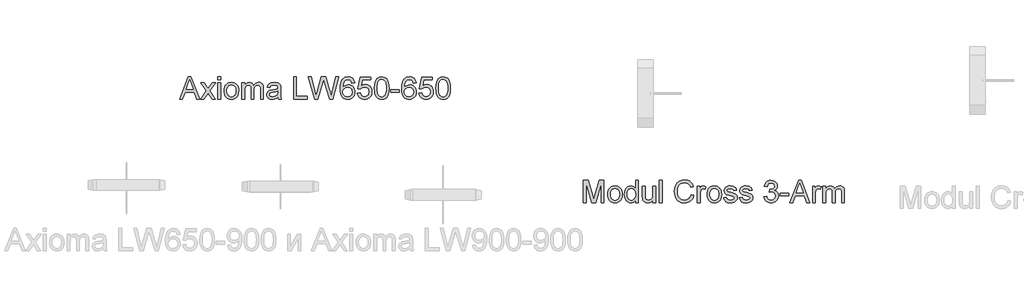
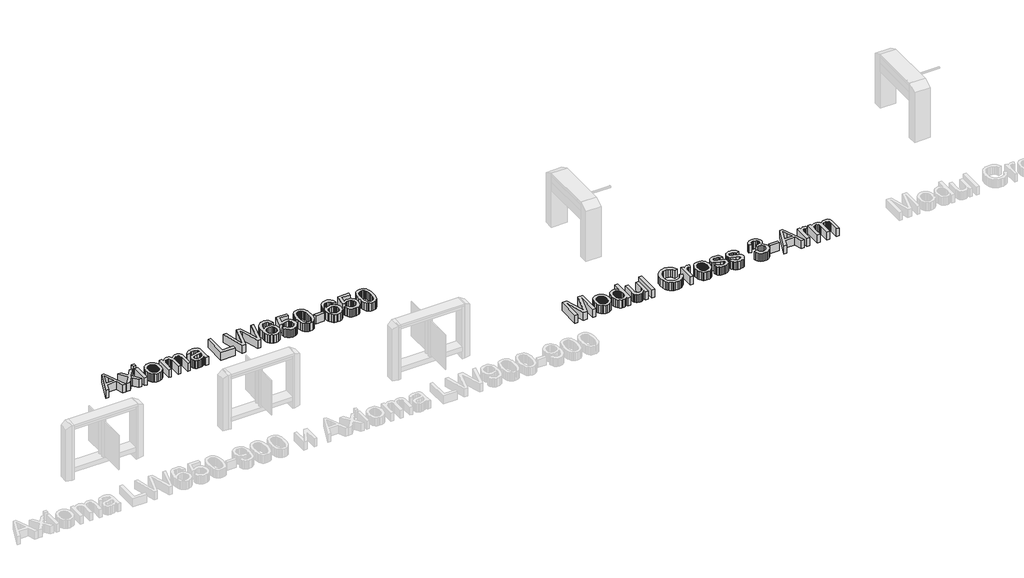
# One storey, part 5 of 6: 2 proxies.
"""IFC4 building model written with IfcOpenShell, lengths in millimetres."""

from ifc_helpers import new_model, si_unit, origin, origin_with_axes, place, context, project, spatial, polyline, outline, extrude, element, save

model = new_model("IFC4")

# Units and contexts
model_context = context("Model", 3, world=origin())
ifc_project = project(units=[si_unit("LENGTHUNIT", "METRE", prefix="MILLI")], contexts=[model_context])

# Site, building, storey
site = spatial("IfcSite", under=ifc_project)
building = spatial("IfcBuilding", under=site)
storey = spatial("IfcBuildingStorey", under=building, Name="Уровень 1", Elevation=0.0)

# Proxies
placement = place(None, origin())
element("IfcBuildingElementProxy", 1, Name="600 мм Arial", ObjectType="600 мм Arial", at=placement, inside=storey, context=model_context, shape_type="SweptSolid", body=[
    extrude(outline(polyline([(3966.2068967, 3910.7138765), (3966.2068967, 4312.5391171), (4052.6346401, 4312.5391171), (4134.8440033, 4029.3190317), (4151.4232186, 3970.1636069), (4169.3758599, 4034.224125), (4250.211797, 4312.5391171), (4336.6395404, 4312.5391171), (4336.6395404, 3910.7138765), (4286.4113853, 3910.7138765), (4286.4113853, 4262.310962), (4185.4645659, 3910.7138765), (4117.3818713, 3910.7138765), (4016.4350518, 4262.310962), (4016.4350518, 3910.7138765), (3966.2068967, 3910.7138765)])), origin_with_axes(), (0.0, 0.0, 1.0), 150.0),
    extrude(outline(polyline([(4405.7032536, 4058.259082), (4408.419449, 4096.4758899), (4416.5680352, 4129.4074599), (4430.1490122, 4157.0537918), (4449.16238, 4179.4148858), (4468.3045065, 4193.7071013), (4489.4331957, 4203.9158266), (4512.5484478, 4210.0410619), (4537.6502626, 4212.0828069), (4565.3609739, 4209.5965378), (4590.4168034, 4202.1377303), (4612.8177512, 4189.7063846), (4632.5638173, 4172.3025005), (4648.6801144, 4150.5146894), (4660.1917552, 4124.9315623), (4667.0987396, 4095.5531193), (4669.4010678, 4062.3793604), (4665.3298404, 4011.6361705), (4653.1161581, 3973.008561), (4633.1156403, 3944.0807734), (4605.6839062, 3922.4370494), (4573.1018242, 3908.9357802), (4537.6502626, 3904.4353571), (4509.5348811, 3906.9124292), (4484.2460596, 3914.3436455), (4461.7837981, 3926.729006), (4442.1480966, 3944.0685107), (4426.2034778, 3966.067854), (4414.8144644, 3992.4327303), (4407.9810563, 4023.1631397), (4405.7032536, 4058.259082)]), holes=[polyline([(4455.9314087, 4058.3571839), (4457.3845426, 4033.9941988), (4461.7439442, 4012.899232), (4469.0096136, 3995.0722837), (4479.1815508, 3980.5133537), (4491.5546486, 3969.204048), (4505.4237998, 3961.1259726), (4520.7890045, 3956.2791273), (4537.6502626, 3954.6635122), (4554.4256816, 3956.2883243), (4569.7295726, 3961.1627608), (4583.5619356, 3969.2868215), (4595.9227706, 3980.6605065), (4606.0947078, 3995.3635236), (4613.3603772, 4013.4755805), (4617.7197788, 4034.9966772), (4619.1729127, 4059.9268137), (4617.7105818, 4083.5172467), (4613.323589, 4104.0603904), (4606.0119343, 4121.556245), (4595.7756178, 4136.0048103), (4583.3687975, 4147.314116), (4569.5456316, 4155.3921915), (4554.3061199, 4160.2390368), (4537.6502626, 4161.8546519), (4520.7890045, 4160.2451681), (4505.4237998, 4155.4167169), (4491.5546486, 4147.3692983), (4479.1815508, 4136.1029122), (4469.0096136, 4121.5869018), (4461.7439442, 4103.7906103), (4457.3845426, 4082.7140376), (4455.9314087, 4058.3571839)])]), origin_with_axes(), (0.0, 0.0, 1.0), 150.0),
    extrude(outline(polyline([(4907.9848044, 3910.7138765), (4907.9848044, 3958.0970775), (4892.9568249, 3934.6200748), (4874.7527975, 3917.8507872), (4853.3727222, 3907.7892146), (4828.816599, 3904.4353571), (4796.3448816, 3909.2913994), (4766.6200164, 3923.8595264), (4741.4568879, 3947.1219313), (4722.6703807, 3978.0608071), (4710.9717332, 4015.425355), (4707.0721841, 4057.9647764), (4710.6651649, 4099.9769003), (4721.4441074, 4137.9177967), (4739.3967487, 4169.6292247), (4764.5108263, 4192.9529432), (4794.8856163, 4207.300341), (4828.6203953, 4212.0828069), (4853.1949126, 4208.6615044), (4874.9244758, 4198.3975967), (4893.343101, 4182.6645101), (4907.9848044, 4162.8356705), (4907.9848044, 4312.5391171), (4958.2129595, 4312.5391171), (4958.2129595, 3910.7138765), (4907.9848044, 3910.7138765)]), holes=[polyline([(4757.3003392, 4058.1609802), (4758.7166848, 4033.8041264), (4762.9657219, 4012.7275537), (4770.0474503, 3994.9312622), (4779.9618701, 3980.4152518), (4804.6590147, 3961.1014471), (4818.5342973, 3956.2729959), (4833.4273867, 3954.6635122), (4848.3909869, 3956.1994195), (4862.183496, 3960.8071415), (4886.2552412, 3979.2380295), (4895.7619251, 3993.1470346), (4902.5524136, 4010.2995326), (4907.9848044, 4054.3350074), (4902.4543117, 4102.4784978), (4895.5411959, 4121.013619), (4885.8628337, 4135.8576575), (4874.1611206, 4147.2313426), (4861.1779519, 4155.3554033), (4846.9133275, 4160.2298397), (4831.3672475, 4161.8546519), (4816.1798525, 4160.2942191), (4802.3045699, 4155.6129207), (4789.7413998, 4147.8107567), (4778.4903421, 4136.8877271), (4769.2197158, 4122.6047087), (4762.5978399, 4104.722578), (4757.3003392, 4058.1609802)])]), origin_with_axes(), (0.0, 0.0, 1.0), 150.0),
    extrude(outline(polyline([(5221.9107736, 3910.7138765), (5221.9107736, 3961.4325409), (5203.737403, 3936.496273), (5182.5719256, 3918.684653), (5158.4143412, 3907.9976811), (5131.26465, 3904.4353571), (5106.8004973, 3906.9369547), (5084.0286018, 3914.4417474), (5064.9232635, 3925.7234619), (5051.4587825, 3939.5558249), (5042.3966227, 3956.3557694), (5036.498248, 3976.5402282), (5033.5551921, 4023.2367161), (5033.5551921, 4205.8042875), (5083.7833472, 4205.8042875), (5083.7833472, 4046.8792656), (5086.824505, 3995.6700919), (5094.1453567, 3978.5881046), (5106.6901327, 3965.6018702), (5123.6249672, 3957.3981017), (5144.1159944, 3954.6635122), (5165.7842439, 3957.4594153), (5186.0545418, 3965.8471248), (5202.7686471, 3979.0540885), (5213.7683188, 3996.307754), (5219.8751599, 4019.9380409), (5221.9107736, 4052.2748682), (5221.9107736, 4205.8042875), (5272.1389287, 4205.8042875), (5272.1389287, 3910.7138765), (5221.9107736, 3910.7138765)])), origin_with_axes(), (0.0, 0.0, 1.0), 150.0),
    extrude(outline(polyline([(5341.2026419, 3910.7138765), (5341.2026419, 4312.5391171), (5391.430797, 4312.5391171), (5391.430797, 3910.7138765), (5341.2026419, 3910.7138765)])), origin_with_axes(), (0.0, 0.0, 1.0), 150.0),
    extrude(outline(polyline([(5912.5479059, 4053.5501925), (5962.776061, 4040.6007462), (5952.8371157, 4009.3644992), (5939.5994953, 3982.0707208), (5923.0631996, 3958.7194112), (5903.2282287, 3939.3105702), (5880.5421723, 3924.0526645), (5855.4526202, 3913.1541604), (5827.9595725, 3906.6150579), (5798.063029, 3904.4353571), (5767.4337872, 3906.0846947), (5739.8027837, 3911.0327075), (5715.1700184, 3919.2793956), (5693.5354914, 3930.8247589), (5674.6018314, 3945.4971191), (5658.0716671, 3963.1247981), (5643.9449985, 3983.7077957), (5632.2218256, 4007.246112), (5616.439688, 4059.1174733), (5611.1789754, 4114.6676546), (5617.126401, 4173.2589937), (5624.560683, 4199.556425), (5634.9686778, 4223.8550308), (5648.1173934, 4245.7532065), (5663.773838, 4264.8493478), (5681.9380115, 4281.1434545), (5702.609914, 4294.6355267), (5725.0875039, 4305.2151997), (5748.6687398, 4312.772109), (5799.1421495, 4318.8176365), (5827.8706676, 4316.8617305), (5854.2140842, 4310.9940127), (5878.1723991, 4301.214483), (5899.7456125, 4287.5231414), (5918.5781049, 4270.2817386), (5934.3142573, 4249.8520251), (5946.9540695, 4226.234001), (5956.4975416, 4199.4276663), (5906.2693865, 4187.4592387), (5888.8563054, 4224.0880227), (5865.066603, 4249.214363), (5834.6059738, 4263.7457018), (5797.1801122, 4268.5894814), (5754.0398169, 4263.2184043), (5735.3575429, 4256.5045579), (5718.600518, 4247.1051729), (5691.7083442, 4221.9420444), (5674.2094239, 4189.421276), (5664.6077039, 4152.657602), (5661.4071305, 4114.7657565), (5665.1963151, 4068.3635742), (5676.5638687, 4028.2399112), (5695.9389871, 3995.9276093), (5723.750866, 3972.9595101), (5757.0932375, 3959.2375116), (5793.0598339, 3954.6635122), (5814.896696, 3956.2208793), (5834.9861186, 3960.8929806), (5853.3281017, 3968.6798162), (5869.9226454, 3979.581386), (5884.3773421, 3993.5486391), (5896.2997844, 4010.5325245), (5905.6899724, 4030.5330423), (5912.5479059, 4053.5501925)])), origin_with_axes(), (0.0, 0.0, 1.0), 150.0),
    extrude(outline(polyline([(6025.5612548, 3910.7138765), (6025.5612548, 4205.8042875), (6069.5108905, 4205.8042875), (6069.5108905, 4162.1489575), (6085.7467492, 4187.4592387), (6100.7072837, 4202.3707223), (6115.7168691, 4209.6547858), (6132.0998806, 4212.0828069), (6157.1158563, 4208.2077833), (6182.5242394, 4196.5827122), (6165.7488204, 4151.553956), (6148.0904847, 4159.2794779), (6130.4321489, 4161.8546519), (6115.4348262, 4159.3775798), (6102.0316589, 4151.9463635), (6091.2036655, 4140.1250887), (6083.9318647, 4124.4778411), (6077.8250236, 4096.4207076), (6075.7894099, 4065.8129257), (6075.7894099, 3910.7138765), (6025.5612548, 3910.7138765)])), origin_with_axes(), (0.0, 0.0, 1.0), 150.0),
    extrude(outline(polyline([(6201.3597976, 4058.259082), (6204.075993, 4096.4758899), (6212.2245792, 4129.4074599), (6225.8055561, 4157.0537918), (6244.8189239, 4179.4148858), (6263.9610504, 4193.7071013), (6285.0897397, 4203.9158266), (6308.2049917, 4210.0410619), (6333.3068065, 4212.0828069), (6361.0175178, 4209.5965378), (6386.0733473, 4202.1377303), (6408.4742952, 4189.7063846), (6428.2203613, 4172.3025005), (6444.3366583, 4150.5146894), (6455.8482991, 4124.9315623), (6462.7552836, 4095.5531193), (6465.0576117, 4062.3793604), (6460.9863843, 4011.6361705), (6448.7727021, 3973.008561), (6428.7721843, 3944.0807734), (6401.3404501, 3922.4370494), (6368.7583681, 3908.9357802), (6333.3068065, 3904.4353571), (6305.191425, 3906.9124292), (6279.9026035, 3914.3436455), (6257.440342, 3926.729006), (6237.8046406, 3944.0685107), (6221.8600217, 3966.067854), (6210.4710083, 3992.4327303), (6203.6376003, 4023.1631397), (6201.3597976, 4058.259082)]), holes=[polyline([(6251.5879526, 4058.3571839), (6253.0410865, 4033.9941988), (6257.4004882, 4012.899232), (6264.6661576, 3995.0722837), (6274.8380947, 3980.5133537), (6287.2111925, 3969.204048), (6301.0803437, 3961.1259726), (6316.4455484, 3956.2791273), (6333.3068065, 3954.6635122), (6350.0822255, 3956.2883243), (6365.3861165, 3961.1627608), (6379.2184795, 3969.2868215), (6391.5793145, 3980.6605065), (6401.7512517, 3995.3635236), (6409.0169211, 4013.4755805), (6413.3763228, 4034.9966772), (6414.8294566, 4059.9268137), (6413.3671257, 4083.5172467), (6408.9801329, 4104.0603904), (6401.6684783, 4121.556245), (6391.4321617, 4136.0048103), (6379.0253415, 4147.314116), (6365.2021755, 4155.3921915), (6349.9626638, 4160.2390368), (6333.3068065, 4161.8546519), (6316.4455484, 4160.2451681), (6301.0803437, 4155.4167169), (6287.2111925, 4147.3692983), (6274.8380947, 4136.1029122), (6264.6661576, 4121.5869018), (6257.4004882, 4103.7906103), (6253.0410865, 4082.7140376), (6251.5879526, 4058.3571839)])]), origin_with_axes(), (0.0, 0.0, 1.0), 150.0),
    extrude(outline(polyline([(6502.728728, 3998.6131479), (6552.9568831, 4004.8916672), (6560.8786087, 3983.4073587), (6576.2070252, 3967.6129584), (6599.0402344, 3957.9008737), (6629.4763381, 3954.6635122), (6659.5445598, 3957.6310936), (6680.6855118, 3966.5338379), (6693.1934997, 3979.4342332), (6697.3628289, 3994.3947677), (6693.1689742, 4007.1970611), (6680.58741, 4016.9581967), (6628.8877269, 4031.281069), (6553.2511887, 4055.8555863), (6534.1090622, 4068.2041586), (6520.239911, 4084.5503819), (6511.8154133, 4103.851924), (6509.0072474, 4125.0664523), (6511.2635903, 4144.5274099), (6518.032619, 4162.492314), (6528.7011969, 4178.2499261), (6542.6561872, 4191.0890077), (6574.5883444, 4205.9514403), (6595.471779, 4210.5499653), (6617.8022161, 4212.0828069), (6650.4946627, 4209.6179976), (6678.9196782, 4202.2235695), (6701.7774129, 4190.6230239), (6717.7680169, 4175.5398621), (6728.3630184, 4155.8581753), (6735.0339452, 4130.4620549), (6684.8057902, 4124.1835356), (6678.4659571, 4139.9901986), (6665.9211811, 4151.8973125), (6647.0488347, 4159.365317), (6621.7262907, 4161.8546519), (6592.8843423, 4159.4756816), (6573.6563767, 4152.3387709), (6562.840646, 4142.0380751), (6559.2354025, 4130.1677493), (6565.2196163, 4115.5505714), (6583.9570726, 4104.4650606), (6627.2199952, 4093.7719573), (6700.943547, 4070.1294077), (6720.4167673, 4058.8231677), (6735.181098, 4043.3475985), (6744.4885125, 4023.653649), (6747.590984, 3999.6922684), (6743.9489523, 3974.9215474), (6733.022857, 3951.6223543), (6715.2296312, 3931.6218365), (6690.9862077, 3916.7471412), (6661.7028009, 3907.5133031), (6628.789625, 3904.4353571), (6601.7564298, 3905.9191478), (6578.144537, 3910.37052), (6557.9539469, 3917.7894735), (6541.1846592, 3928.1760085), (6527.4871863, 3941.481074), (6516.5120401, 3957.6556191), (6508.2592207, 3976.6996437), (6502.728728, 3998.6131479)])), origin_with_axes(), (0.0, 0.0, 1.0), 150.0),
    extrude(outline(polyline([(6785.2621003, 3998.6131479), (6835.4902554, 4004.8916672), (6843.411981, 3983.4073587), (6858.7403975, 3967.6129584), (6881.5736066, 3957.9008737), (6912.0097104, 3954.6635122), (6942.0779321, 3957.6310936), (6963.2188841, 3966.5338379), (6975.7268719, 3979.4342332), (6979.8962012, 3994.3947677), (6975.7023465, 4007.1970611), (6963.1207822, 4016.9581967), (6911.4210992, 4031.281069), (6835.784561, 4055.8555863), (6816.6424345, 4068.2041586), (6802.7732833, 4084.5503819), (6794.3487856, 4103.851924), (6791.5406197, 4125.0664523), (6793.7969626, 4144.5274099), (6800.5659913, 4162.492314), (6811.2345692, 4178.2499261), (6825.1895595, 4191.0890077), (6857.1217167, 4205.9514403), (6878.0051513, 4210.5499653), (6900.3355884, 4212.0828069), (6933.028035, 4209.6179976), (6961.4530505, 4202.2235695), (6984.3107852, 4190.6230239), (7000.3013892, 4175.5398621), (7010.8963907, 4155.8581753), (7017.5673175, 4130.4620549), (6967.3391625, 4124.1835356), (6960.9993294, 4139.9901986), (6948.4545534, 4151.8973125), (6929.582207, 4159.365317), (6904.259663, 4161.8546519), (6875.4177146, 4159.4756816), (6856.189749, 4152.3387709), (6845.3740183, 4142.0380751), (6841.7687748, 4130.1677493), (6847.7529886, 4115.5505714), (6866.4904448, 4104.4650606), (6909.7533675, 4093.7719573), (6983.4769193, 4070.1294077), (7002.9501396, 4058.8231677), (7017.7144703, 4043.3475985), (7027.0218848, 4023.653649), (7030.1243563, 3999.6922684), (7026.4823245, 3974.9215474), (7015.5562293, 3951.6223543), (6997.7630035, 3931.6218365), (6973.51958, 3916.7471412), (6944.2361732, 3907.5133031), (6911.3229973, 3904.4353571), (6884.289802, 3905.9191478), (6860.6779093, 3910.37052), (6840.4873192, 3917.7894735), (6823.7180315, 3928.1760085), (6810.0205586, 3941.481074), (6799.0454124, 3957.6556191), (6790.792593, 3976.6996437), (6785.2621003, 3998.6131479)])), origin_with_axes(), (0.0, 0.0, 1.0), 150.0),
    extrude(outline(polyline([(7231.0369766, 4017.448706), (7281.2651317, 4023.7272254), (7292.510058, 3992.1629502), (7308.9789086, 3970.85032), (7331.481024, 3958.7102141), (7360.8257445, 3954.6635122), (7395.2594992, 3960.230793), (7409.5333207, 3967.1898941), (7421.8451048, 3976.9326356), (7438.8412529, 4001.8505094), (7444.5066357, 4032.065884), (7438.8903039, 4060.7484169), (7422.0413085, 4084.0108217), (7396.5348235, 4099.4250773), (7364.9460228, 4104.5631625), (7329.7274532, 4099.069458), (7335.3192595, 4149.2976131), (7343.3636125, 4148.7090019), (7373.4563597, 4152.3142455), (7400.3607962, 4163.1299761), (7411.4340443, 4171.3092191), (7419.3435072, 4181.425974), (7424.0891849, 4193.4802407), (7425.6710775, 4207.4720193), (7421.0848153, 4229.1647942), (7407.3260287, 4246.7618163), (7386.3322295, 4258.4236756), (7360.0409296, 4262.310962), (7333.7005787, 4258.3868874), (7312.1672193, 4246.6146635), (7296.4463953, 4226.9942905), (7287.5436511, 4199.5257682), (7237.315496, 4205.8042875), (7243.2690529, 4229.7840623), (7252.1043522, 4250.9066202), (7263.8213937, 4269.1719612), (7278.4201776, 4284.5800854), (7295.4408512, 4296.8121618), (7314.4235622, 4305.5493592), (7335.3683104, 4310.7916776), (7358.275096, 4312.5391171), (7389.8516339, 4309.0932891), (7418.8529979, 4298.755805), (7443.3048878, 4282.4463699), (7461.2330037, 4261.0846887), (7472.2326754, 4236.4733832), (7475.8992326, 4210.4150752), (7472.4166164, 4186.1348635), (7461.9687677, 4164.1109948), (7444.7028394, 4145.349013), (7420.7659842, 4130.8544624), (7452.2076321, 4118.1502708), (7475.5068251, 4096.5188095), (7489.9277993, 4067.1373008), (7494.7347907, 4031.1829672), (7492.331295, 4005.7010076), (7485.1208079, 3982.2301363), (7473.1033294, 3960.7703533), (7456.2788595, 3941.3216585), (7435.781701, 3925.1839016), (7412.7461568, 3913.6569324), (7387.1722267, 3906.7407509), (7359.0599109, 3904.4353571), (7333.6515278, 3906.4035258), (7310.4994876, 3912.3080318), (7289.6037902, 3922.1488752), (7270.9644358, 3935.9260559), (7255.3355824, 3952.8302336), (7243.471388, 3972.0520678), (7235.3718528, 3993.5915586), (7231.0369766, 4017.448706)])), origin_with_axes(), (0.0, 0.0, 1.0), 150.0),
    extrude(outline(polyline([(7526.1273877, 4030.0057448), (7526.1273877, 4080.2338999), (7683.0903723, 4080.2338999), (7683.0903723, 4030.0057448), (7526.1273877, 4030.0057448)])), origin_with_axes(), (0.0, 0.0, 1.0), 150.0),
    extrude(outline(polyline([(7699.0809763, 3910.7138765), (7859.4775262, 4312.5391171), (7902.2499395, 4312.5391171), (8062.6464894, 3910.7138765), (8009.5733803, 3910.7138765), (7963.5636054, 4036.2842642), (7798.0657585, 4036.2842642), (7752.1540855, 3910.7138765), (7699.0809763, 3910.7138765)]), holes=[polyline([(7816.5089092, 4086.5124192), (7945.2185566, 4086.5124192), (7909.0189682, 4185.3009977), (7880.8637329, 4262.310962), (7855.8477572, 4193.9339618), (7816.5089092, 4086.5124192)])]), origin_with_axes(), (0.0, 0.0, 1.0), 150.0),
    extrude(outline(polyline([(8110.0296904, 3910.7138765), (8110.0296904, 4205.8042875), (8153.9793261, 4205.8042875), (8153.9793261, 4162.1489575), (8170.2151848, 4187.4592387), (8185.1757193, 4202.3707223), (8200.1853047, 4209.6547858), (8216.5683162, 4212.0828069), (8241.5842919, 4208.2077833), (8266.992675, 4196.5827122), (8250.217256, 4151.553956), (8232.5589203, 4159.2794779), (8214.9005845, 4161.8546519), (8199.9032618, 4159.3775798), (8186.5000945, 4151.9463635), (8175.6721011, 4140.1250887), (8168.4003003, 4124.4778411), (8162.2934592, 4096.4207076), (8160.2578455, 4065.8129257), (8160.2578455, 3910.7138765), (8110.0296904, 3910.7138765)])), origin_with_axes(), (0.0, 0.0, 1.0), 150.0),
    extrude(outline(polyline([(8298.3852719, 3910.7138765), (8298.3852719, 4205.8042875), (8348.613427, 4205.8042875), (8348.613427, 4157.2438642), (8363.7211143, 4179.5497758), (8383.1452836, 4197.0241706), (8406.2237475, 4208.3181478), (8432.2943182, 4212.0828069), (8460.2288244, 4208.2445715), (8482.6205751, 4196.729865), (8499.3469432, 4178.298977), (8510.2853012, 4153.712197), (8528.5935618, 4179.2493389), (8549.4769964, 4197.4901545), (8572.9356049, 4208.4346438), (8598.9693875, 4212.0828069), (8619.0772042, 4210.5652937), (8636.7263429, 4206.012754), (8651.9168036, 4198.4251879), (8664.6485863, 4187.8025953), (8674.7132246, 4174.0223488), (8681.9022519, 4156.9618213), (8686.2156683, 4136.6210127), (8687.6534738, 4112.9999229), (8687.6534738, 3910.7138765), (8637.4253187, 3910.7138765), (8637.4253187, 4091.4175125), (8636.260359, 4116.4702764), (8632.7654801, 4133.35606), (8626.2171806, 4144.9198173), (8615.8919592, 4154.0065026), (8602.6114192, 4159.8926146), (8587.1971636, 4161.8546519), (8559.9861587, 4156.8269313), (8537.8028744, 4141.7437695), (8529.1975014, 4130.1738807), (8523.0508064, 4115.5750969), (8518.1334504, 4077.2908439), (8518.1334504, 3910.7138765), (8467.9052953, 3910.7138765), (8467.9052953, 4097.0093188), (8464.9990276, 4125.4098089), (8456.2802243, 4145.6678441), (8440.9395451, 4157.8079499), (8418.1676496, 4161.8546519), (8398.8170566, 4159.1568506), (8380.9870426, 4151.0634467), (8366.2717628, 4137.7706439), (8356.2653725, 4119.474646), (8350.5264134, 4094.0907883), (8348.613427, 4059.5344063), (8348.613427, 3910.7138765), (8298.3852719, 3910.7138765)])), origin_with_axes(), (0.0, 0.0, 1.0), 150.0),
])
element("IfcBuildingElementProxy", 2, Name="600 мм Arial", ObjectType="600 мм Arial", at=placement, inside=storey, context=model_context, shape_type="SweptSolid", body=[
    extrude(outline(polyline([(-3339.2674295, 5782.6803252), (-3178.8708796, 6184.5055658), (-3136.0984663, 6184.5055658), (-2975.7019164, 5782.6803252), (-3028.7750255, 5782.6803252), (-3074.7848004, 5908.2507129), (-3240.2826473, 5908.2507129), (-3286.1943203, 5782.6803252), (-3339.2674295, 5782.6803252)]), holes=[polyline([(-3221.8394966, 5958.478868), (-3093.1298492, 5958.478868), (-3129.3294376, 6057.2674464), (-3157.4846729, 6134.2774107), (-3182.5006486, 6065.9004106), (-3221.8394966, 5958.478868)])]), origin_with_axes(), (0.0, 0.0, 1.0), 150.0),
    extrude(outline(polyline([(-2959.7113123, 5782.6803252), (-2852.3878716, 5931.0103457), (-2953.4327929, 6077.7707363), (-2893.0020439, 6077.7707363), (-2844.2454168, 6007.1373932), (-2821.485784, 5973.782759), (-2801.767309, 6001.0550776), (-2746.2416532, 6077.7707363), (-2685.8109042, 6077.7707363), (-2791.9571225, 5931.0103457), (-2689.7349788, 5782.6803252), (-2750.1657279, 5782.6803252), (-2811.6755974, 5871.8549209), (-2822.957312, 5888.1398305), (-2899.2805632, 5782.6803252), (-2959.7113123, 5782.6803252)])), origin_with_axes(), (0.0, 0.0, 1.0), 150.0),
    extrude(outline(polyline([(-2645.7853431, 6134.2774107), (-2645.7853431, 6184.5055658), (-2595.557188, 6184.5055658), (-2595.557188, 6134.2774107), (-2645.7853431, 6134.2774107)])), origin_with_axes(), (0.0, 0.0, 1.0), 150.0),
    extrude(outline(polyline([(-2645.7853431, 5782.6803252), (-2645.7853431, 6077.7707363), (-2595.557188, 6077.7707363), (-2595.557188, 5782.6803252), (-2645.7853431, 5782.6803252)])), origin_with_axes(), (0.0, 0.0, 1.0), 150.0),
    extrude(outline(polyline([(-2532.7719942, 5930.2255308), (-2530.0557988, 5968.4423387), (-2521.9072126, 6001.3739086), (-2508.3262356, 6029.0202406), (-2489.3128678, 6051.3813345), (-2470.1707413, 6065.67355), (-2449.0420521, 6075.8822754), (-2425.9268, 6082.0075106), (-2400.8249852, 6084.0492557), (-2373.1142739, 6081.5629865), (-2348.0584444, 6074.1041791), (-2325.6574966, 6061.6728333), (-2305.9114305, 6044.2689493), (-2289.7951334, 6022.4811381), (-2278.2834926, 5996.898011), (-2271.3765082, 5967.519568), (-2269.07418, 5934.3458091), (-2273.1454074, 5883.6026192), (-2285.3590897, 5844.9750097), (-2305.3596075, 5816.0472222), (-2332.7913416, 5794.4034981), (-2365.3734236, 5780.9022289), (-2400.8249852, 5776.4018058), (-2428.9403667, 5778.8788779), (-2454.2291882, 5786.3100942), (-2476.6914497, 5798.6954547), (-2496.3271512, 5816.0349595), (-2512.27177, 5838.0343028), (-2523.6607834, 5864.3991791), (-2530.4941915, 5895.1295884), (-2532.7719942, 5930.2255308)]), holes=[polyline([(-2482.5438391, 5930.3236326), (-2481.0907052, 5905.9606475), (-2476.7313036, 5884.8656808), (-2469.4656342, 5867.0387324), (-2459.293697, 5852.4798024), (-2446.9205992, 5841.1704968), (-2433.051448, 5833.0924213), (-2417.6862433, 5828.245576), (-2400.8249852, 5826.6299609), (-2384.0495663, 5828.2547731), (-2368.7456753, 5833.1292095), (-2354.9133122, 5841.2532702), (-2342.5524772, 5852.6269552), (-2332.38054, 5867.3299723), (-2325.1148706, 5885.4420292), (-2320.755469, 5906.9631259), (-2319.3023351, 5931.8932625), (-2320.764666, 5955.4836954), (-2325.1516588, 5976.0268392), (-2332.4633135, 5993.5226937), (-2342.69963, 6007.9712591), (-2355.1064503, 6019.2805647), (-2368.9296163, 6027.3586402), (-2384.1691279, 6032.2054855), (-2400.8249852, 6033.8211006), (-2417.6862433, 6032.2116169), (-2433.051448, 6027.3831657), (-2446.9205992, 6019.335747), (-2459.293697, 6008.0693609), (-2469.4656342, 5993.5533505), (-2476.7313036, 5975.757059), (-2481.0907052, 5954.6804864), (-2482.5438391, 5930.3236326)])]), origin_with_axes(), (0.0, 0.0, 1.0), 150.0),
    extrude(outline(polyline([(-2212.5675056, 5782.6803252), (-2212.5675056, 6077.7707363), (-2162.3393505, 6077.7707363), (-2162.3393505, 6029.2103129), (-2147.2316632, 6051.5162246), (-2127.8074939, 6068.9906193), (-2104.7290301, 6080.2845966), (-2078.6584593, 6084.0492557), (-2050.7239532, 6080.2110202), (-2028.3322024, 6068.6963137), (-2011.6058343, 6050.2654258), (-2000.6674763, 6025.6786458), (-1982.3592157, 6051.2157876), (-1961.4757811, 6069.4566032), (-1938.0171726, 6080.4010926), (-1911.98339, 6084.0492557), (-1891.8755733, 6082.5317424), (-1874.2264346, 6077.9792028), (-1859.0359739, 6070.3916366), (-1846.3041912, 6059.769044), (-1836.2395529, 6045.9887976), (-1829.0505256, 6028.9282701), (-1824.7371092, 6008.5874614), (-1823.2993037, 5984.9663716), (-1823.2993037, 5782.6803252), (-1873.5274588, 5782.6803252), (-1873.5274588, 5963.3839613), (-1874.6924185, 5988.4367251), (-1878.1872974, 6005.3225087), (-1884.7355969, 6016.8862661), (-1895.0608183, 6025.9729514), (-1908.3413583, 6031.8590633), (-1923.7556139, 6033.8211006), (-1950.9666188, 6028.79338), (-1973.1499031, 6013.7102182), (-1981.7552761, 6002.1403294), (-1987.9019711, 5987.5415456), (-1992.8193271, 5949.2572926), (-1992.8193271, 5782.6803252), (-2043.0474822, 5782.6803252), (-2043.0474822, 5968.9757676), (-2045.95375, 5997.3762576), (-2054.6725532, 6017.6342928), (-2070.0132324, 6029.7743987), (-2092.7851279, 6033.8211006), (-2112.1357209, 6031.1232993), (-2129.9657349, 6023.0298954), (-2144.6810147, 6009.7370926), (-2154.687405, 5991.4410948), (-2160.4263641, 5966.0572371), (-2162.3393505, 5931.500855), (-2162.3393505, 5782.6803252), (-2212.5675056, 5782.6803252)])), origin_with_axes(), (0.0, 0.0, 1.0), 150.0),
    extrude(outline(polyline([(-1559.6014896, 5820.3514415), (-1583.5996584, 5799.7745753), (-1608.3090658, 5786.3100942), (-1634.2937974, 5778.8788779), (-1662.1179389, 5776.4018058), (-1684.4820985, 5777.8917279), (-1704.0932746, 5782.3614942), (-1720.951467, 5789.8111046), (-1735.0566758, 5800.2405591), (-1746.1943032, 5812.9876703), (-1754.1497514, 5827.3902504), (-1758.9230203, 5843.4482995), (-1760.5141099, 5861.1618175), (-1758.1106142, 5881.9839385), (-1750.9001271, 5900.893073), (-1739.7778281, 5917.0798808), (-1725.6388968, 5929.7350214), (-1709.0228933, 5939.2999533), (-1690.469378, 5946.2161348), (-1647.0102517, 5953.7699784), (-1595.6539251, 5961.7162295), (-1559.8957952, 5971.0359068), (-1559.6014896, 5982.2195194), (-1563.0595804, 6004.6357956), (-1573.4338526, 6019.3020245), (-1596.6349438, 6030.1913316), (-1628.9595084, 6033.8211006), (-1658.8805774, 6031.4053422), (-1679.7762747, 6024.1580669), (-1694.0255706, 6010.7548995), (-1704.0074354, 5989.8714649), (-1754.2355905, 5996.1499843), (-1745.5167872, 6023.6185066), (-1732.5060273, 6045.200917), (-1713.9893002, 6061.7065558), (-1688.7525954, 6073.9447635), (-1657.887296, 6081.5231326), (-1622.4847853, 6084.0492557), (-1588.5292772, 6081.8174382), (-1561.6125778, 6075.1219859), (-1541.3177544, 6065.054282), (-1527.227874, 6052.7057097), (-1517.8836713, 6037.4386069), (-1511.8258812, 6018.6153115), (-1509.3733345, 5974.6656758), (-1509.3733345, 5912.1747875), (-1506.822686, 5824.9131783), (-1496.8162958, 5782.6803252), (-1547.0444508, 5782.6803252), (-1555.0888038, 5800.1424573), (-1559.6014896, 5820.3514415)]), holes=[polyline([(-1559.6014896, 5920.8077517), (-1593.3485313, 5912.4445677), (-1640.6336304, 5905.4057588), (-1683.8475021, 5897.263304), (-1695.0924284, 5891.6960231), (-1703.4188242, 5884.0195522), (-1708.5691722, 5874.8225023), (-1710.2859548, 5864.6934847), (-1706.5458212, 5849.7574757), (-1695.3254204, 5837.519268), (-1676.8700069, 5829.3522877), (-1651.4248356, 5826.6299609), (-1624.4468226, 5829.6343305), (-1600.6080693, 5838.6474394), (-1581.2820018, 5851.9279795), (-1567.8420463, 5867.7346425), (-1561.882358, 5884.0195522), (-1559.8957952, 5906.5829812), (-1559.6014896, 5920.8077517)])]), origin_with_axes(), (0.0, 0.0, 1.0), 150.0),
    extrude(outline(polyline([(-1277.0681173, 5782.6803252), (-1277.0681173, 6184.5055658), (-1226.8399622, 6184.5055658), (-1226.8399622, 5832.9084803), (-1025.9273419, 5832.9084803), (-1025.9273419, 5782.6803252), (-1277.0681173, 5782.6803252)])), origin_with_axes(), (0.0, 0.0, 1.0), 150.0),
    extrude(outline(polyline([(-897.5120001, 5782.6803252), (-1007.0917838, 6184.5055658), (-955.2939989, 6184.5055658), (-891.7239901, 5920.4153442), (-872.103617, 5838.8926941), (-851.1098178, 5910.9975651), (-771.4511031, 6184.5055658), (-696.7955836, 6184.5055658), (-638.915483, 5986.2416959), (-614.1202365, 5912.6652969), (-595.8487641, 5838.8926941), (-576.8170022, 5918.0608994), (-512.6583823, 6184.5055658), (-460.8605973, 6184.5055658), (-570.5384828, 5782.6803252), (-624.2002032, 5782.6803252), (-720.536235, 6092.6822198), (-733.9761906, 6135.9451425), (-749.0838778, 6083.8530519), (-836.8850473, 5782.6803252), (-897.5120001, 5782.6803252)])), origin_with_axes(), (0.0, 0.0, 1.0), 150.0),
    extrude(outline(polyline([(-172.0487057, 6077.7707363), (-222.2768607, 6071.4922169), (-230.3702646, 6096.3855652), (-241.3086226, 6113.3817134), (-264.0927809, 6129.0534864), (-291.6348796, 6134.2774107), (-314.9831235, 6131.2362529), (-336.9579414, 6122.1127794), (-355.8302877, 6102.8970766), (-371.2445433, 6076.4463611), (-381.6556038, 6039.0327622), (-385.5183647, 5986.9284089), (-365.3706941, 6010.4360684), (-341.2253725, 6027.003021), (-314.4313005, 6036.8254702), (-286.3373788, 6040.09962), (-262.2043199, 6037.8616712), (-239.9351965, 6031.1478248), (-219.5300085, 6019.9580807), (-200.9887559, 6004.2924391), (-185.5806317, 5985.0828676), (-174.5748287, 5963.2613339), (-167.9713469, 5938.8278381), (-165.7701863, 5911.7823801), (-169.9149901, 5875.8157837), (-182.3494015, 5842.4734122), (-202.043351, 5814.1955495), (-227.9667689, 5793.4224795), (-258.9424329, 5780.6569743), (-293.7931206, 5776.4018058), (-323.7356493, 5779.2222345), (-350.7780416, 5787.6835204), (-374.9202976, 5801.7856635), (-396.1624171, 5821.5286639), (-413.480462, 5847.7463874), (-425.8504941, 5881.2726999), (-433.2725134, 5922.1076014), (-435.7465198, 5970.2510918), (-432.9996676, 6024.2255119), (-424.7591109, 6070.2904691), (-411.0248497, 6108.4459633), (-391.7968841, 6138.6919947), (-370.9563691, 6158.7354321), (-346.7926534, 6173.052173), (-319.305737, 6181.6422176), (-288.4956199, 6184.5055658), (-265.3619737, 6182.7336009), (-244.4233568, 6177.417706), (-225.6797692, 6168.5578813), (-209.1312108, 6156.1541267), (-195.2252714, 6140.6233752), (-184.4095407, 6122.3825596), (-176.6840188, 6101.4316799), (-172.0487057, 6077.7707363)]), holes=[polyline([(-385.5183647, 5912.567195), (-382.612097, 5890.3103343), (-373.8932937, 5869.0590177), (-360.3552363, 5850.7875453), (-342.9912061, 5837.470217), (-322.0341951, 5829.3400249), (-297.7171952, 5826.6299609), (-264.5710274, 5832.2462927), (-250.655891, 5839.2667074), (-238.5127195, 5849.0952881), (-228.662679, 5861.3334958), (-221.6269359, 5875.5827917), (-215.9983413, 5910.1146484), (-221.5533595, 5943.2608161), (-228.4971321, 5956.881647), (-238.2184139, 5968.5343092), (-250.3983736, 5977.8693148), (-264.7181802, 5984.537176), (-299.7773344, 5989.8714649), (-332.8744512, 5984.537176), (-360.55144, 5968.5343092), (-371.4744696, 5957.0349312), (-379.2766335, 5943.8739528), (-383.9579319, 5929.0513741), (-385.5183647, 5912.567195)])]), origin_with_axes(), (0.0, 0.0, 1.0), 150.0),
    extrude(outline(polyline([(-121.8205506, 5889.4151548), (-71.5923955, 5895.6936741), (-62.3708202, 5865.5396133), (-46.2821142, 5843.9449402), (-23.3998541, 5830.9587057), (6.2023837, 5826.6299609), (25.3322475, 5828.1352114), (42.2057683, 5832.6509629), (56.8229463, 5840.1772154), (69.1837813, 5850.7139689), (79.012362, 5863.7400572), (86.0327767, 5878.7343142), (91.6491085, 5914.6273342), (86.388396, 5948.4234268), (79.8125053, 5962.3416289), (70.6062584, 5974.2732683), (58.7389983, 5983.8443316), (44.1800684, 5990.6808053), (6.9871987, 5996.1499843), (-17.3788522, 5993.9672178), (-37.1095898, 5987.4189183), (-52.867202, 5977.3880025), (-65.3138761, 5964.7573874), (-115.5420312, 5971.0359068), (-71.5923955, 6178.2270464), (123.0417054, 6178.2270464), (123.0417054, 6127.9988914), (-30.9782232, 6127.9988914), (-52.4625318, 6017.3399872), (-34.736751, 6030.0441788), (-16.5817745, 6039.1186013), (2.0023976, 6044.5632549), (21.0157654, 6046.3781394), (45.4768524, 6044.1279278), (67.9452453, 6037.3772932), (88.420944, 6026.1262355), (106.9039486, 6010.3747548), (122.2047739, 5991.0854755), (133.1339348, 5969.2210222), (139.6914314, 5944.781395), (141.8772636, 5917.7665939), (139.9090949, 5891.7450741), (134.0045889, 5867.5384388), (124.1637455, 5845.146688), (110.3865648, 5824.5698217), (89.5153929, 5803.4963148), (65.1616048, 5788.4438098), (37.3252005, 5779.4123068), (6.00618, 5776.4018058), (-19.9141722, 5778.336252), (-43.3267955, 5784.1395905), (-64.2316899, 5793.8118213), (-82.6288554, 5807.3529444), (-97.935812, 5824.0885095), (-109.5700801, 5843.3440662), (-117.5316597, 5865.1196147), (-121.8205506, 5889.4151548)])), origin_with_axes(), (0.0, 0.0, 1.0), 150.0),
    extrude(outline(polyline([(185.8268993, 5980.355584), (189.5179819, 6044.6736195), (200.59123, 6095.9686323), (218.9362788, 6135.0254375), (230.7943418, 6150.2588178), (244.4427638, 6162.6288498), (259.9275301, 6172.1999131), (277.294626, 6179.0363868), (317.6758063, 6184.5055658), (348.6269448, 6181.2682043), (376.3407218, 6171.5561196), (399.5172875, 6155.7494565), (416.8567922, 6134.2283598), (429.9533913, 6107.1767704), (440.4012399, 6074.7786294), (447.243845, 6033.6371596), (449.5247134, 5980.355584), (445.8704189, 5916.4054305), (434.9075355, 5865.2330449), (416.6728512, 5826.1394516), (404.8423794, 5810.8600861), (391.2031544, 5798.4256746), (375.699994, 5788.790232), (358.2777159, 5781.907773), (317.6758063, 5776.4018058), (290.0110803, 5778.7930388), (265.4856139, 5785.9667377), (244.0994073, 5797.9229026), (225.8524603, 5814.6615333), (208.3412774, 5844.9198274), (195.8332895, 5882.6216006), (188.3284968, 5927.7668528), (185.8268993, 5980.355584)]), holes=[polyline([(236.0550543, 5980.4536858), (237.5265823, 5936.7891587), (241.9411662, 5901.444896), (249.2988062, 5874.4208978), (259.599502, 5855.717164), (272.0584389, 5842.9915127), (285.8908019, 5833.9017617), (301.0965911, 5828.4479111), (317.6758063, 5826.6299609), (334.2550216, 5828.4540425), (349.4608107, 5833.9262872), (363.2931737, 5843.046695), (375.7521106, 5855.8152659), (386.0528065, 5874.5496565), (393.4104464, 5901.5675233), (397.8250303, 5936.8688665), (399.2965583, 5980.4536858), (397.8740813, 6022.9624504), (393.6066501, 6057.6843794), (386.4942649, 6084.6194728), (376.5369256, 6103.7677306), (364.2864551, 6117.1157157), (350.2946766, 6126.6499907), (334.5615899, 6132.3705557), (317.0871951, 6134.2774107), (300.593819, 6132.5974163), (285.6455473, 6127.557433), (272.2423799, 6119.1574607), (260.3843169, 6107.3974996), (249.7402645, 6086.5508532), (242.13737, 6058.4446688), (237.5756332, 6023.0789463), (236.0550543, 5980.4536858)])]), origin_with_axes(), (0.0, 0.0, 1.0), 150.0),
    extrude(outline(polyline([(480.9173103, 5901.9721935), (480.9173103, 5952.2003486), (637.8802949, 5952.2003486), (637.8802949, 5901.9721935), (480.9173103, 5901.9721935)])), origin_with_axes(), (0.0, 0.0, 1.0), 150.0),
    extrude(outline(polyline([(939.2492254, 6077.7707363), (889.0210703, 6071.4922169), (880.9276664, 6096.3855652), (869.9893084, 6113.3817134), (847.2051502, 6129.0534864), (819.6630515, 6134.2774107), (796.3148075, 6131.2362529), (774.3399897, 6122.1127794), (755.4676433, 6102.8970766), (740.0533877, 6076.4463611), (729.6423273, 6039.0327622), (725.7795663, 5986.9284089), (745.9272369, 6010.4360684), (770.0725585, 6027.003021), (796.8666305, 6036.8254702), (824.9605522, 6040.09962), (849.0936111, 6037.8616712), (871.3627345, 6031.1478248), (891.7679225, 6019.9580807), (910.3091751, 6004.2924391), (925.7172993, 5985.0828676), (936.7231023, 5963.2613339), (943.3265842, 5938.8278381), (945.5277448, 5911.7823801), (941.3829409, 5875.8157837), (928.9485295, 5842.4734122), (909.25458, 5814.1955495), (883.3311621, 5793.4224795), (852.3554981, 5780.6569743), (817.5048104, 5776.4018058), (787.5622817, 5779.2222345), (760.5198894, 5787.6835204), (736.3776334, 5801.7856635), (715.1355139, 5821.5286639), (697.817469, 5847.7463874), (685.4474369, 5881.2726999), (678.0254176, 5922.1076014), (675.5514112, 5970.2510918), (678.2982635, 6024.2255119), (686.5388202, 6070.2904691), (700.2730813, 6108.4459633), (719.5010469, 6138.6919947), (740.3415619, 6158.7354321), (764.5052777, 6173.052173), (791.9921941, 6181.6422176), (822.8023112, 6184.5055658), (845.9359573, 6182.7336009), (866.8745742, 6177.417706), (885.6181618, 6168.5578813), (902.1667203, 6156.1541267), (916.0726597, 6140.6233752), (926.8883903, 6122.3825596), (934.6139122, 6101.4316799), (939.2492254, 6077.7707363)]), holes=[polyline([(725.7795663, 5912.567195), (728.6858341, 5890.3103343), (737.4046374, 5869.0590177), (750.9426948, 5850.7875453), (768.3067249, 5837.470217), (789.2637359, 5829.3400249), (813.5807358, 5826.6299609), (846.7269036, 5832.2462927), (860.6420401, 5839.2667074), (872.7852116, 5849.0952881), (882.635252, 5861.3334958), (889.6709952, 5875.5827917), (895.2995897, 5910.1146484), (889.7445716, 5943.2608161), (882.8007989, 5956.881647), (873.0795172, 5968.5343092), (860.8995575, 5977.8693148), (846.5797508, 5984.537176), (811.5205966, 5989.8714649), (778.4234798, 5984.537176), (750.746491, 5968.5343092), (739.8234615, 5957.0349312), (732.0212975, 5943.8739528), (727.3399991, 5929.0513741), (725.7795663, 5912.567195)])]), origin_with_axes(), (0.0, 0.0, 1.0), 150.0),
    extrude(outline(polyline([(989.4773804, 5889.4151548), (1039.7055355, 5895.6936741), (1048.9271109, 5865.5396133), (1065.0158168, 5843.9449402), (1087.8980769, 5830.9587057), (1117.5003148, 5826.6299609), (1136.6301785, 5828.1352114), (1153.5036994, 5832.6509629), (1168.1208773, 5840.1772154), (1180.4817123, 5850.7139689), (1190.310293, 5863.7400572), (1197.3307077, 5878.7343142), (1202.9470395, 5914.6273342), (1197.686327, 5948.4234268), (1191.1104363, 5962.3416289), (1181.9041894, 5974.2732683), (1170.0369294, 5983.8443316), (1155.4779994, 5990.6808053), (1118.2851297, 5996.1499843), (1093.9190789, 5993.9672178), (1074.1883412, 5987.4189183), (1058.4307291, 5977.3880025), (1045.9840549, 5964.7573874), (995.7558998, 5971.0359068), (1039.7055355, 6178.2270464), (1234.3396364, 6178.2270464), (1234.3396364, 6127.9988914), (1080.3197078, 6127.9988914), (1058.8353993, 6017.3399872), (1076.5611801, 6030.0441788), (1094.7161565, 6039.1186013), (1113.3003287, 6044.5632549), (1132.3136964, 6046.3781394), (1156.7747834, 6044.1279278), (1179.2431763, 6037.3772932), (1199.718875, 6026.1262355), (1218.2018796, 6010.3747548), (1233.5027049, 5991.0854755), (1244.4318658, 5969.2210222), (1250.9893624, 5944.781395), (1253.1751946, 5917.7665939), (1251.2070259, 5891.7450741), (1245.3025199, 5867.5384388), (1235.4616765, 5845.146688), (1221.6844958, 5824.5698217), (1200.8133239, 5803.4963148), (1176.4595359, 5788.4438098), (1148.6231316, 5779.4123068), (1117.304111, 5776.4018058), (1091.3837588, 5778.336252), (1067.9711355, 5784.1395905), (1047.0662411, 5793.8118213), (1028.6690757, 5807.3529444), (1013.362119, 5824.0885095), (1001.7278509, 5843.3440662), (993.7662714, 5865.1196147), (989.4773804, 5889.4151548)])), origin_with_axes(), (0.0, 0.0, 1.0), 150.0),
    extrude(outline(polyline([(1297.1248303, 5980.355584), (1300.815913, 6044.6736195), (1311.889161, 6095.9686323), (1330.2342098, 6135.0254375), (1342.0922728, 6150.2588178), (1355.7406948, 6162.6288498), (1371.2254612, 6172.1999131), (1388.592557, 6179.0363868), (1428.9737374, 6184.5055658), (1459.9248759, 6181.2682043), (1487.6386528, 6171.5561196), (1510.8152185, 6155.7494565), (1528.1547233, 6134.2283598), (1541.2513223, 6107.1767704), (1551.6991709, 6074.7786294), (1558.5417761, 6033.6371596), (1560.8226444, 5980.355584), (1557.1683499, 5916.4054305), (1546.2054665, 5865.2330449), (1527.9707823, 5826.1394516), (1516.1403104, 5810.8600861), (1502.5010855, 5798.4256746), (1486.997925, 5788.790232), (1469.5756469, 5781.907773), (1428.9737374, 5776.4018058), (1401.3090113, 5778.7930388), (1376.783545, 5785.9667377), (1355.3973383, 5797.9229026), (1337.1503914, 5814.6615333), (1319.6392084, 5844.9198274), (1307.1312205, 5882.6216006), (1299.6264278, 5927.7668528), (1297.1248303, 5980.355584)]), holes=[polyline([(1347.3529854, 5980.4536858), (1348.8245133, 5936.7891587), (1353.2390973, 5901.444896), (1360.5967372, 5874.4208978), (1370.897433, 5855.717164), (1383.35637, 5842.9915127), (1397.188733, 5833.9017617), (1412.3945221, 5828.4479111), (1428.9737374, 5826.6299609), (1445.5529526, 5828.4540425), (1460.7587417, 5833.9262872), (1474.5911048, 5843.046695), (1487.0500417, 5855.8152659), (1497.3507375, 5874.5496565), (1504.7083774, 5901.5675233), (1509.1229614, 5936.8688665), (1510.5944893, 5980.4536858), (1509.1720123, 6022.9624504), (1504.9045812, 6057.6843794), (1497.7921959, 6084.6194728), (1487.8348566, 6103.7677306), (1475.5843861, 6117.1157157), (1461.5926076, 6126.6499907), (1445.8595209, 6132.3705557), (1428.3851262, 6134.2774107), (1411.89175, 6132.5974163), (1396.9434783, 6127.557433), (1383.5403109, 6119.1574607), (1371.682248, 6107.3974996), (1361.0381956, 6086.5508532), (1353.435301, 6058.4446688), (1348.8735643, 6023.0789463), (1347.3529854, 5980.4536858)])]), origin_with_axes(), (0.0, 0.0, 1.0), 150.0),
])

save(model, "model.ifc")
